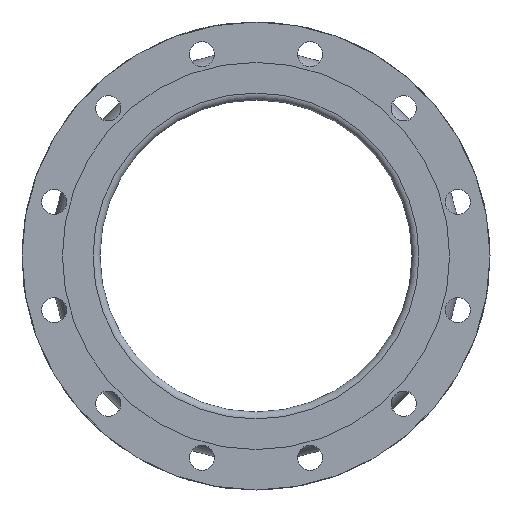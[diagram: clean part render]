
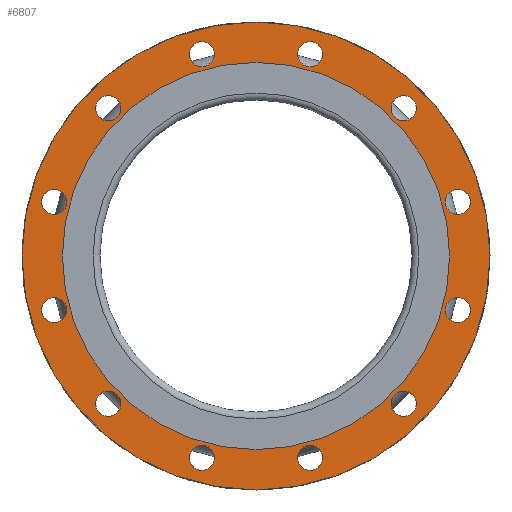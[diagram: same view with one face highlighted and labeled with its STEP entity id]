
A CAD part, left-side view. The second image highlights one B-rep face of the part: STEP entity #6807.
In plain terms, the highlighted planar face has unit normal (-1, 0, 0).
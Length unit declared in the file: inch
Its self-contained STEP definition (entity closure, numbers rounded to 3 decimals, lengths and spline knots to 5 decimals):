
#714=PLANE('',#7253);
#828=FACE_BOUND('',#1465,.T.);
#829=FACE_BOUND('',#1466,.T.);
#830=FACE_BOUND('',#1467,.T.);
#831=FACE_BOUND('',#1468,.T.);
#832=FACE_BOUND('',#1469,.T.);
#833=FACE_BOUND('',#1470,.T.);
#834=FACE_BOUND('',#1471,.T.);
#835=FACE_BOUND('',#1472,.T.);
#836=FACE_BOUND('',#1473,.T.);
#837=FACE_BOUND('',#1474,.T.);
#838=FACE_BOUND('',#1475,.T.);
#839=FACE_BOUND('',#1476,.T.);
#840=FACE_BOUND('',#1477,.T.);
#1050=FACE_OUTER_BOUND('',#1464,.T.);
#1464=EDGE_LOOP('',(#4284));
#1465=EDGE_LOOP('',(#4285));
#1466=EDGE_LOOP('',(#4286));
#1467=EDGE_LOOP('',(#4287));
#1468=EDGE_LOOP('',(#4288));
#1469=EDGE_LOOP('',(#4289));
#1470=EDGE_LOOP('',(#4290));
#1471=EDGE_LOOP('',(#4291));
#1472=EDGE_LOOP('',(#4292));
#1473=EDGE_LOOP('',(#4293));
#1474=EDGE_LOOP('',(#4294));
#1475=EDGE_LOOP('',(#4295));
#1476=EDGE_LOOP('',(#4296));
#1477=EDGE_LOOP('',(#4297));
#2029=CIRCLE('',#7183,0.5625);
#2031=CIRCLE('',#7186,0.5625);
#2033=CIRCLE('',#7189,0.5625);
#2035=CIRCLE('',#7192,0.5625);
#2037=CIRCLE('',#7195,0.5625);
#2039=CIRCLE('',#7198,0.5625);
#2041=CIRCLE('',#7201,0.5625);
#2043=CIRCLE('',#7204,0.5625);
#2045=CIRCLE('',#7207,0.5625);
#2047=CIRCLE('',#7210,0.5625);
#2049=CIRCLE('',#7213,0.5625);
#2051=CIRCLE('',#7216,0.5625);
#2076=CIRCLE('',#7254,10.5);
#2077=CIRCLE('',#7255,8.6875);
#2629=VERTEX_POINT('',#10493);
#2631=VERTEX_POINT('',#10498);
#2633=VERTEX_POINT('',#10503);
#2635=VERTEX_POINT('',#10508);
#2637=VERTEX_POINT('',#10513);
#2639=VERTEX_POINT('',#10518);
#2641=VERTEX_POINT('',#10523);
#2643=VERTEX_POINT('',#10528);
#2645=VERTEX_POINT('',#10533);
#2647=VERTEX_POINT('',#10538);
#2649=VERTEX_POINT('',#10543);
#2651=VERTEX_POINT('',#10548);
#2676=VERTEX_POINT('',#10611);
#2677=VERTEX_POINT('',#10613);
#3301=EDGE_CURVE('',#2629,#2629,#2029,.T.);
#3303=EDGE_CURVE('',#2631,#2631,#2031,.T.);
#3305=EDGE_CURVE('',#2633,#2633,#2033,.T.);
#3307=EDGE_CURVE('',#2635,#2635,#2035,.T.);
#3309=EDGE_CURVE('',#2637,#2637,#2037,.T.);
#3311=EDGE_CURVE('',#2639,#2639,#2039,.T.);
#3313=EDGE_CURVE('',#2641,#2641,#2041,.T.);
#3315=EDGE_CURVE('',#2643,#2643,#2043,.T.);
#3317=EDGE_CURVE('',#2645,#2645,#2045,.T.);
#3319=EDGE_CURVE('',#2647,#2647,#2047,.T.);
#3321=EDGE_CURVE('',#2649,#2649,#2049,.T.);
#3323=EDGE_CURVE('',#2651,#2651,#2051,.T.);
#3348=EDGE_CURVE('',#2676,#2676,#2076,.T.);
#3349=EDGE_CURVE('',#2677,#2677,#2077,.T.);
#4284=ORIENTED_EDGE('',*,*,#3348,.F.);
#4285=ORIENTED_EDGE('',*,*,#3301,.T.);
#4286=ORIENTED_EDGE('',*,*,#3303,.T.);
#4287=ORIENTED_EDGE('',*,*,#3305,.T.);
#4288=ORIENTED_EDGE('',*,*,#3307,.T.);
#4289=ORIENTED_EDGE('',*,*,#3309,.T.);
#4290=ORIENTED_EDGE('',*,*,#3311,.T.);
#4291=ORIENTED_EDGE('',*,*,#3313,.T.);
#4292=ORIENTED_EDGE('',*,*,#3315,.T.);
#4293=ORIENTED_EDGE('',*,*,#3317,.T.);
#4294=ORIENTED_EDGE('',*,*,#3319,.T.);
#4295=ORIENTED_EDGE('',*,*,#3321,.T.);
#4296=ORIENTED_EDGE('',*,*,#3323,.T.);
#4297=ORIENTED_EDGE('',*,*,#3349,.T.);
#6807=ADVANCED_FACE('',(#1050,#828,#829,#830,#831,#832,#833,#834,#835,#836,
#837,#838,#839,#840),#714,.T.);
#7183=AXIS2_PLACEMENT_3D('',#10494,#8177,#8178);
#7186=AXIS2_PLACEMENT_3D('',#10499,#8183,#8184);
#7189=AXIS2_PLACEMENT_3D('',#10504,#8189,#8190);
#7192=AXIS2_PLACEMENT_3D('',#10509,#8195,#8196);
#7195=AXIS2_PLACEMENT_3D('',#10514,#8201,#8202);
#7198=AXIS2_PLACEMENT_3D('',#10519,#8207,#8208);
#7201=AXIS2_PLACEMENT_3D('',#10524,#8213,#8214);
#7204=AXIS2_PLACEMENT_3D('',#10529,#8219,#8220);
#7207=AXIS2_PLACEMENT_3D('',#10534,#8225,#8226);
#7210=AXIS2_PLACEMENT_3D('',#10539,#8231,#8232);
#7213=AXIS2_PLACEMENT_3D('',#10544,#8237,#8238);
#7216=AXIS2_PLACEMENT_3D('',#10549,#8243,#8244);
#7253=AXIS2_PLACEMENT_3D('',#10610,#8317,#8318);
#7254=AXIS2_PLACEMENT_3D('',#10612,#8319,#8320);
#7255=AXIS2_PLACEMENT_3D('',#10614,#8321,#8322);
#8177=DIRECTION('center_axis',(1.,0.,0.));
#8178=DIRECTION('ref_axis',(0.,-0.5,-0.866));
#8183=DIRECTION('center_axis',(1.,0.,0.));
#8184=DIRECTION('ref_axis',(0.,-0.866,-0.5));
#8189=DIRECTION('center_axis',(1.,0.,0.));
#8190=DIRECTION('ref_axis',(0.,-1.,0.));
#8195=DIRECTION('center_axis',(1.,0.,0.));
#8196=DIRECTION('ref_axis',(0.,-0.866,0.5));
#8201=DIRECTION('center_axis',(1.,0.,0.));
#8202=DIRECTION('ref_axis',(0.,-0.5,0.866));
#8207=DIRECTION('center_axis',(1.,0.,0.));
#8208=DIRECTION('ref_axis',(0.,0.,1.));
#8213=DIRECTION('center_axis',(1.,0.,0.));
#8214=DIRECTION('ref_axis',(0.,0.5,0.866));
#8219=DIRECTION('center_axis',(1.,0.,0.));
#8220=DIRECTION('ref_axis',(0.,0.866,0.5));
#8225=DIRECTION('center_axis',(1.,0.,0.));
#8226=DIRECTION('ref_axis',(0.,1.,0.));
#8231=DIRECTION('center_axis',(1.,0.,0.));
#8232=DIRECTION('ref_axis',(0.,0.866,-0.5));
#8237=DIRECTION('center_axis',(1.,0.,0.));
#8238=DIRECTION('ref_axis',(0.,0.5,-0.866));
#8243=DIRECTION('center_axis',(1.,0.,0.));
#8244=DIRECTION('ref_axis',(0.,0.,-1.));
#8317=DIRECTION('center_axis',(-1.,0.,0.));
#8318=DIRECTION('ref_axis',(0.,0.,1.));
#8319=DIRECTION('center_axis',(1.,0.,0.));
#8320=DIRECTION('ref_axis',(0.,0.,-1.));
#8321=DIRECTION('center_axis',(1.,0.,0.));
#8322=DIRECTION('ref_axis',(0.,0.,-1.));
#10493=CARTESIAN_POINT('',(-6.,6.91038,-6.14199));
#10494=CARTESIAN_POINT('Origin',(-6.,6.62913,-6.62913));
#10498=CARTESIAN_POINT('',(-6.,2.91357,-8.7743));
#10499=CARTESIAN_POINT('Origin',(-6.,2.42643,-9.05555));
#10503=CARTESIAN_POINT('',(-6.,-1.86393,-9.05555));
#10504=CARTESIAN_POINT('Origin',(-6.,-2.42643,-9.05555));
#10508=CARTESIAN_POINT('',(-6.,-6.14199,-6.91038));
#10509=CARTESIAN_POINT('Origin',(-6.,-6.62913,-6.62913));
#10513=CARTESIAN_POINT('',(-6.,-8.7743,-2.91357));
#10514=CARTESIAN_POINT('Origin',(-6.,-9.05555,-2.42643));
#10518=CARTESIAN_POINT('',(-6.,-9.05555,1.86393));
#10519=CARTESIAN_POINT('Origin',(-6.,-9.05555,2.42643));
#10523=CARTESIAN_POINT('',(-6.,-6.91038,6.14199));
#10524=CARTESIAN_POINT('Origin',(-6.,-6.62913,6.62913));
#10528=CARTESIAN_POINT('',(-6.,-2.91357,8.7743));
#10529=CARTESIAN_POINT('Origin',(-6.,-2.42643,9.05555));
#10533=CARTESIAN_POINT('',(-6.,1.86393,9.05555));
#10534=CARTESIAN_POINT('Origin',(-6.,2.42643,9.05555));
#10538=CARTESIAN_POINT('',(-6.,6.14199,6.91038));
#10539=CARTESIAN_POINT('Origin',(-6.,6.62913,6.62913));
#10543=CARTESIAN_POINT('',(-6.,8.7743,2.91357));
#10544=CARTESIAN_POINT('Origin',(-6.,9.05555,2.42643));
#10548=CARTESIAN_POINT('',(-6.,9.05555,-1.86393));
#10549=CARTESIAN_POINT('Origin',(-6.,9.05555,-2.42643));
#10610=CARTESIAN_POINT('Origin',(-6.,10.5,0.));
#10611=CARTESIAN_POINT('',(-6.,10.5,0.));
#10612=CARTESIAN_POINT('Origin',(-6.,0.,0.));
#10613=CARTESIAN_POINT('',(-6.,8.6875,0.));
#10614=CARTESIAN_POINT('Origin',(-6.,0.,0.));
